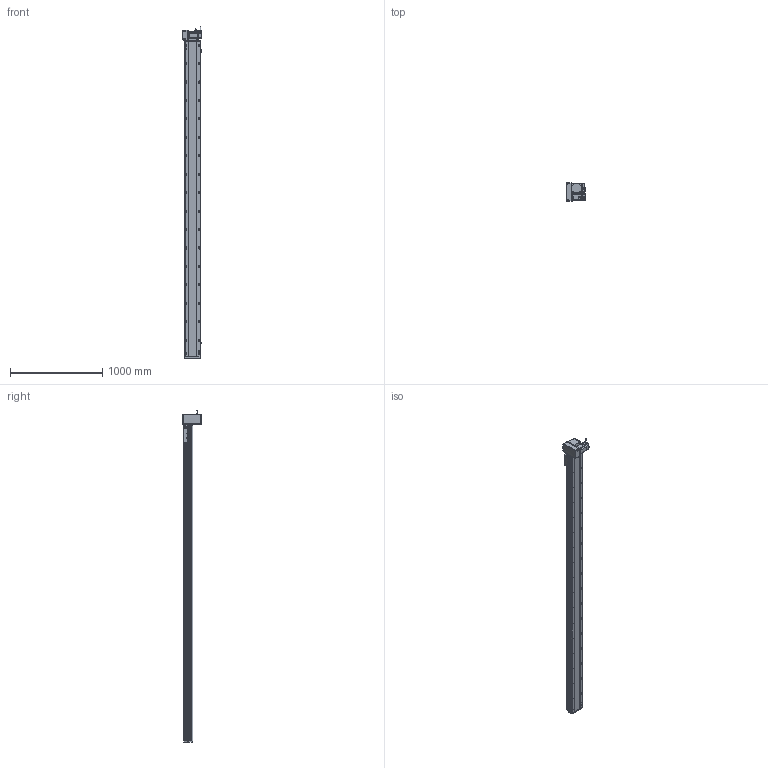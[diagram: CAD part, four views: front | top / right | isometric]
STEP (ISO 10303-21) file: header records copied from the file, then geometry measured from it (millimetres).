
FILE_DESCRIPTION (( 'STEP AP214' ), '1' );
FILE_NAME ('RTB17S-XX-3150-LM-M75-C4.STEP', '2025-12-12T00:50:35', ( '' ), ( '' ), 'SwSTEP 2.0', 'SolidWorks 2018', '' );
FILE_SCHEMA (( 'AUTOMOTIVE_DESIGN' ));
Length unit declared in the file: millimetre
Products named in the file (15): RTB17S-L-001-耜醱啣^RTB17S-XX-XX-LM-M75-C4; RTB22S-GY-008-M75--萇儂啣^RTB17S-LM-々湍釱蚾饜-750W_RTB17S-XX-XX-LM-M75-C4; RTB22S-GY-018P^RTB17S-LM-々湍釱蚾饜-750W_RTB17S-XX-XX-LM-M75-C4; RTH13-BL-012覜茼え俋离^RTB17S-賑釱_RTB17S-XX-XX-LM-M75-C4; RTB22S-GY-017P^RTB17S-LM-々湍釱蚾饜-750W_RTB17S-XX-XX-LM-M75-C4; RTB17-R-011菁釱^RTB17S-XX-XX-LM-M75-C4; RTB17S-XX-3150-LM-M75-C4; RTB17S-L-004-賑釱^RTB17S-賑釱_RTB17S-XX-XX-LM-M75-C4; RTB17S-L-014-T20-P75--々湍釱^RTB17S-LM-々湍釱蚾饜-750W_RTB17S-XX-XX-LM-M75-C4; RTB17S-L-007奻裔^RTB17S-XX-XX-LM-M75-C4; 750W萇儂^RTB17S-XX-XX-LM-M75-C4; RTB17S-賑釱^RTB17S-XX-XX-LM-M75-C4; RTB22S-GY-005P^RTB17S-LM-々湍釱蚾饜-750W_RTB17S-XX-XX-LM-M75-C4; EE672^RTB17S-XX-XX-LM-M75-C4; RTB17S-LM-々湍釱蚾饜-750W^RTB17S-XX-XX-LM-M75-C4
Assembly tree (17 placements, depth 3):
  RTB17S-XX-3150-LM-M75-C4
    RTB17-R-011菁釱^RTB17S-XX-XX-LM-M75-C4
    EE672^RTB17S-XX-XX-LM-M75-C4  x3
    RTB17S-L-001-耜醱啣^RTB17S-XX-XX-LM-M75-C4
    RTB17S-賑釱^RTB17S-XX-XX-LM-M75-C4
      RTB17S-L-004-賑釱^RTB17S-賑釱_RTB17S-XX-XX-LM-M75-C4
      RTH13-BL-012覜茼え俋离^RTB17S-賑釱_RTB17S-XX-XX-LM-M75-C4
    RTB17S-L-007奻裔^RTB17S-XX-XX-LM-M75-C4
    750W萇儂^RTB17S-XX-XX-LM-M75-C4
    RTB17S-LM-々湍釱蚾饜-750W^RTB17S-XX-XX-LM-M75-C4
      RTB17S-L-014-T20-P75--々湍釱^RTB17S-LM-々湍釱蚾饜-750W_RTB17S-XX-XX-LM-M75-C4
      RTB22S-GY-005P^RTB17S-LM-々湍釱蚾饜-750W_RTB17S-XX-XX-LM-M75-C4
      RTB22S-GY-017P^RTB17S-LM-々湍釱蚾饜-750W_RTB17S-XX-XX-LM-M75-C4  x2
      RTB22S-GY-008-M75--萇儂啣^RTB17S-LM-々湍釱蚾饜-750W_RTB17S-XX-XX-LM-M75-C4
      RTB22S-GY-018P^RTB17S-LM-々湍釱蚾饜-750W_RTB17S-XX-XX-LM-M75-C4
Bounding box: 210.4 x 200 x 3602.2 mm (x, y, z)
Volume: 25641130.6 mm3; surface area: 4711826.9 mm2
Topology: 17 solids, 17 shells, 2265 faces, 6376 edges, 4130 vertices
Faces by surface type: plane 992, cylinder 857, bspline 294, cone 110, sphere 8, torus 4
Entity records: 66550 total; most frequent: CARTESIAN_POINT 19840, ORIENTED_EDGE 9596, DIRECTION 8852, EDGE_CURVE 4798, AXIS2_PLACEMENT_3D 3150, VERTEX_POINT 3134, VECTOR 2552, LINE 2552
